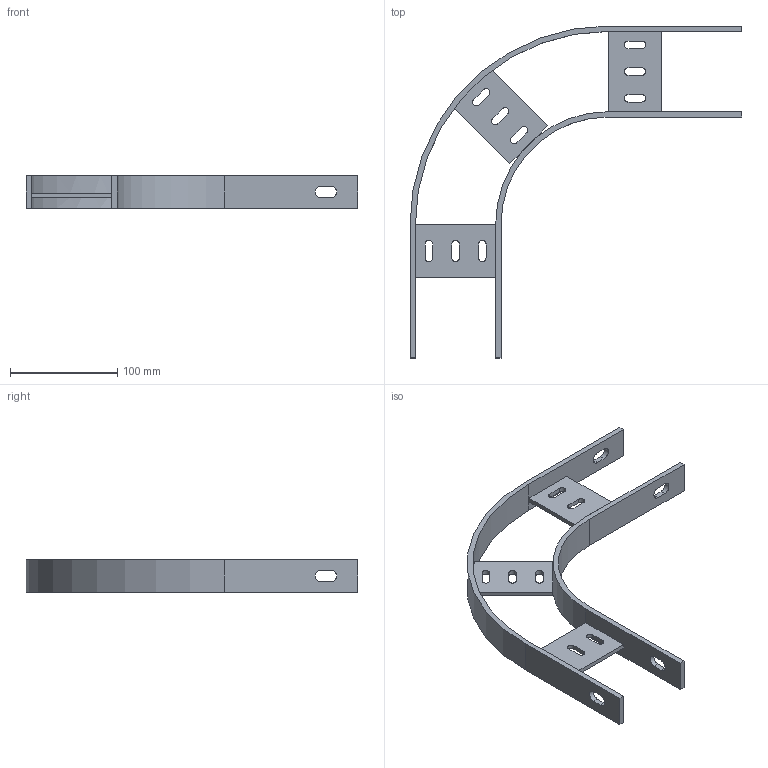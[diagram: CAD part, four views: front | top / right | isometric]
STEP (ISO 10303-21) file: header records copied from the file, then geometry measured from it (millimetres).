
FILE_DESCRIPTION(('Creo Elements/Direct Modeling STEP Export'),'2;1');
FILE_NAME('//pserver/office/EK/ME10-3D/3D-output/SLB 075F.stp','2020-03-10T15:06:53',(''),(''),'PTC Creo Elements/Direct Modeling STEP processor for AP214 (Solid Model)','PTC Creo Elements/Direct Modeling 19.0C 15-Aug-2015 (C) Parametric Technology GmbH','');
FILE_SCHEMA(('AUTOMOTIVE_DESIGN { 1 0 10303 214 1 1 1 1 }'));
Length unit declared in the file: millimetre
Products named in the file (1): SLB_075F
Bounding box: 310 x 310 x 30 mm (x, y, z)
Volume: 178493.4 mm3; surface area: 89260.6 mm2
Topology: 1 solids, 1 shells, 86 faces, 247 edges, 162 vertices
Faces by surface type: plane 56, cylinder 30
Entity records: 2862 total; most frequent: ORIENTED_EDGE 496, CARTESIAN_POINT 489, DIRECTION 475, EDGE_CURVE 247, VECTOR 179, LINE 179, VERTEX_POINT 162, AXIS2_PLACEMENT_3D 148
